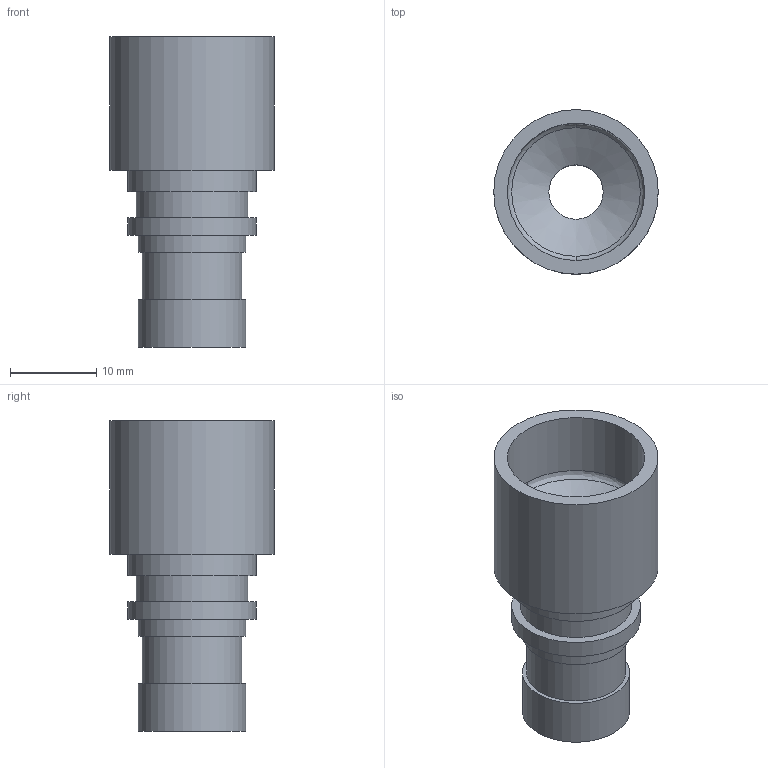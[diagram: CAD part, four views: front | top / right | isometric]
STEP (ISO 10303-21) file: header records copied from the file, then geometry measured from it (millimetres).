
FILE_DESCRIPTION (( 'STEP AP203' ), '1' );
FILE_NAME ('70-9.5R19.05-PH.STEP', '2013-09-19T10:46:02', ( '' ), ( '' ), 'SwSTEP 2.0', 'SolidWorks 2012', '' );
FILE_SCHEMA (( 'CONFIG_CONTROL_DESIGN' ));
Length unit declared in the file: millimetre
Products named in the file (1): 70-9.5R19.05-PH
Bounding box: 19.05 x 19.05 x 36 mm (x, y, z)
Volume: 4150.5 mm3; surface area: 3368.8 mm2
Topology: 1 solids, 1 shells, 22 faces, 38 edges, 25 vertices
Faces by surface type: cylinder 10, plane 9, bspline 2, cone 1
Full cylindrical faces by diameter (mm): 6.3 x1, 9.48 x1, 11.48 x1, 12.43 x1, 12.5 x1, 12.9 x1, 14.9 x2, 15.9 x1, 19.05 x1
Entity records: 567 total; most frequent: CARTESIAN_POINT 107, DIRECTION 88, ORIENTED_EDGE 50, AXIS2_PLACEMENT_3D 44, EDGE_LOOP 42, FACE_OUTER_BOUND 32, EDGE_CURVE 25, CIRCLE 23
